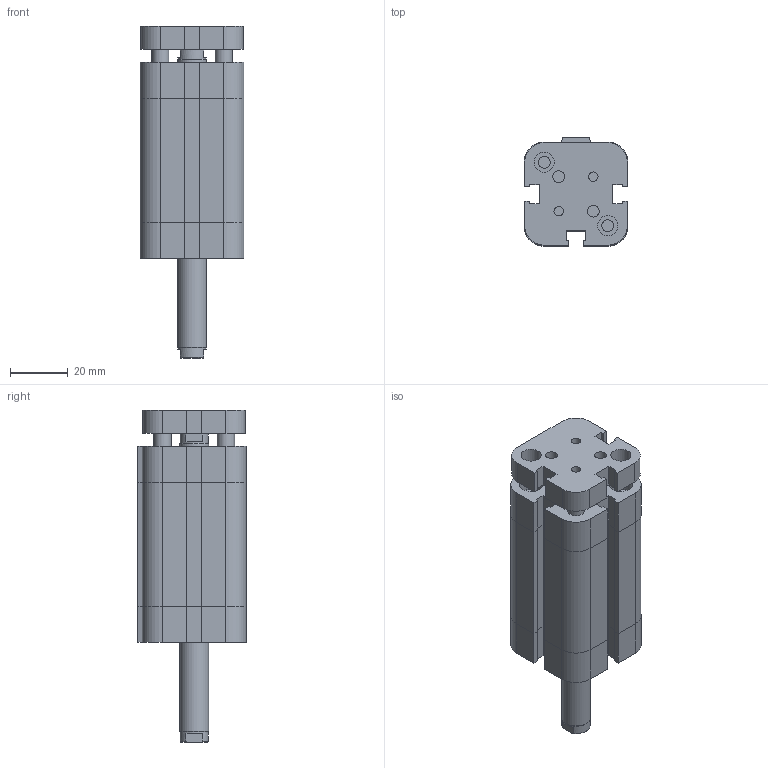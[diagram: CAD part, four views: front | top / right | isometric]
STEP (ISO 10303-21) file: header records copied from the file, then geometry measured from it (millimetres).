
FILE_DESCRIPTION((''),'2;1');
FILE_NAME('I:\Area Tecnica\Disegni\VARIE-3D\Componenti\EUROPE\15##_###_####_08_#\1581_20_0030_08_1.iam.stp','2009-04-20T15:30:24',(''),(''),'Autodesk Inventor 2009','Autodesk Inventor 2009','');
FILE_SCHEMA(('AUTOMOTIVE_DESIGN { 1 0 10303 214 1 1 1 1 }'));
Length unit declared in the file: millimetre
Products named in the file (3): 1581_20_0030_08_1; 1581_20_0030_08_1_C; 1561_20_0030_08_1_SA
Assembly tree (2 placements, depth 2):
  1581_20_0030_08_1
    1581_20_0030_08_1_C
    1561_20_0030_08_1_SA
Bounding box: 36 x 37.5 x 115 mm (x, y, z)
Volume: 89639.7 mm3; surface area: 28404.5 mm2
Topology: 2 solids, 2 shells, 209 faces, 490 edges, 306 vertices
Faces by surface type: plane 135, bspline 47, cylinder 21, cone 6
Full cylindrical faces by diameter (mm): 6 x2, 9.8 x2, 10 x1
Entity records: 6154 total; most frequent: CARTESIAN_POINT 1453, ORIENTED_EDGE 884, DIRECTION 862, EDGE_CURVE 442, VECTOR 340, LINE 340, VERTEX_POINT 290, EDGE_LOOP 276
